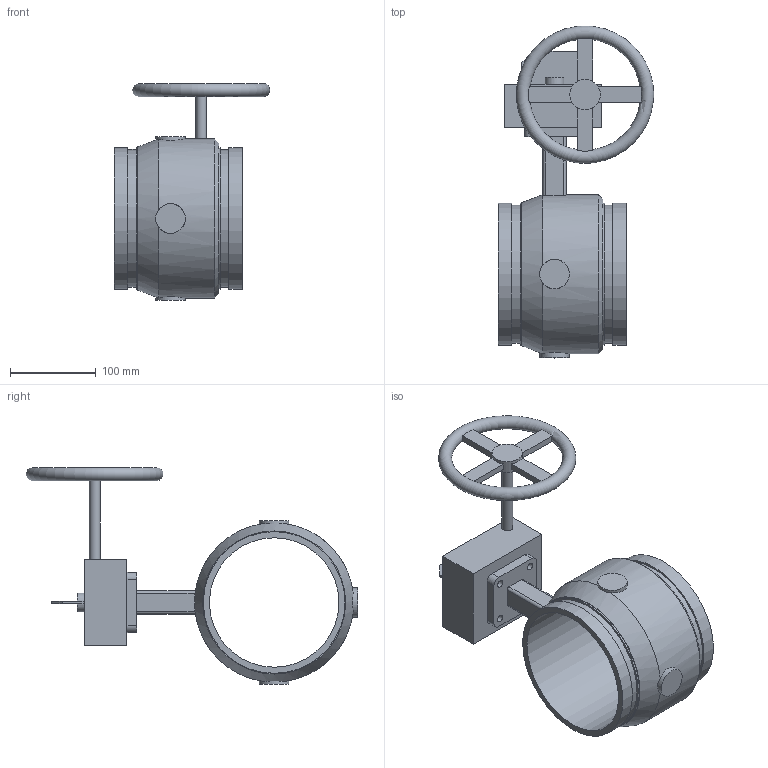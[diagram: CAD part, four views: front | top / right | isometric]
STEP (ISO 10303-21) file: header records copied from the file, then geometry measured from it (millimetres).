
FILE_DESCRIPTION(/* description */ ('VIC FP VALVE BUTTERFLY HP SERIES 766 (OGS)'),/* implementation_level */ '2;1');
FILE_NAME(/* name */ 'C:\Files for Export\766\Victaulic_EU_FP_Vlv Btfl HP_Series 766 (OGS)\Victaulic_EU_FP_Vlv Btfl HP_Series 766 (OGS)_06.0 (165.1) (150).stp',/* time_stamp */ '2024-06-27T12:46:53+02:00',/* author */ ('cps_temp'),/* organization */ ('Victaulic'),/* preprocessor_version */ 'ST-DEVELOPER v18.1',/* originating_system */ 'Autodesk Inventor 2020',/* authorisation */ '');
FILE_SCHEMA (('AUTOMOTIVE_DESIGN { 1 0 10303 214 3 1 1 }'));
Length unit declared in the file: inch
Products named in the file (1): 766-06.0 (165.1)
Bounding box: 181.1 x 386.51 x 252.73 mm (x, y, z)
Volume: 1779056.5 mm3; surface area: 273776.8 mm2
Topology: 1 solids, 2 shells, 91 faces, 243 edges, 166 vertices
Faces by surface type: plane 59, cylinder 29, cone 2, torus 1
Full cylindrical faces by diameter (mm): 8.636 x4, 12.7 x2, 34.392 x3, 35.56 x1, 55.118 x1, 150.876 x1, 160.782 x2, 165.1 x4, 185.42 x1
Entity records: 3387 total; most frequent: CARTESIAN_POINT 866, DIRECTION 496, ORIENTED_EDGE 486, EDGE_CURVE 243, AXIS2_PLACEMENT_3D 191, VERTEX_POINT 166, LINE 114, VECTOR 114
